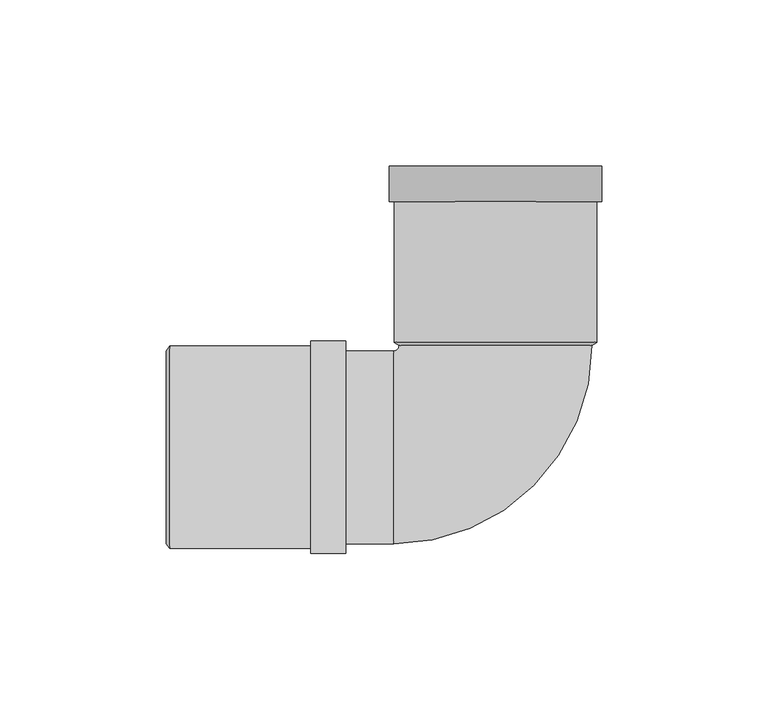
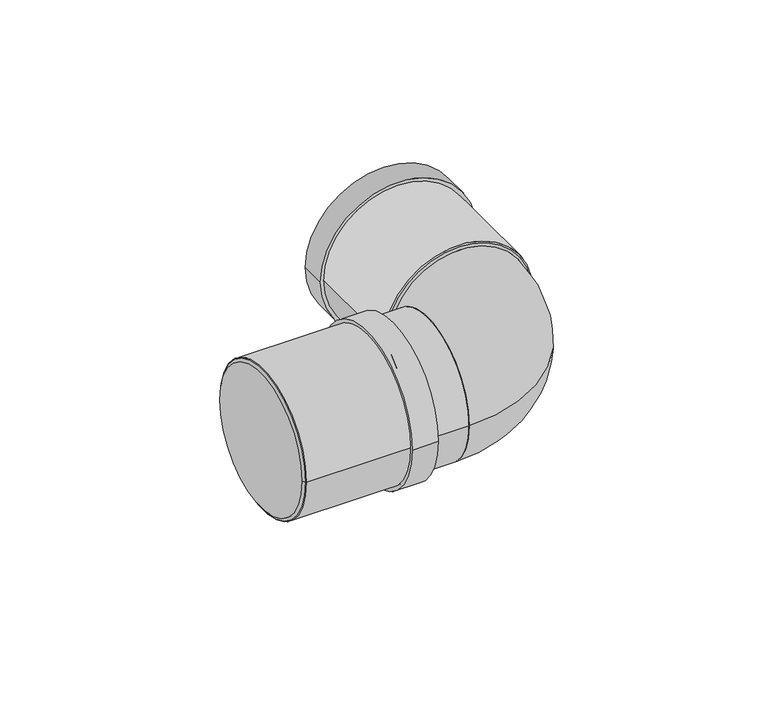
"""IFC4 building model written with IfcOpenShell, lengths in millimetres: pipe fitting geometry, Superdrain SK Bend_Composite 2x45 : Superdrain SK Bend_Composite 2x45."""

from ifc_helpers import new_model, si_unit, point, frame, origin, origin_2d, place, context, project, spatial, polyline, circle_curve, ellipse_curve, trimmed, segment, composite_curve, outline, extrude, source, transform, mapped, element, save
from ifc_brep_helpers import plane_surface, revolved_surface, advanced_brep


def pipe_fitting_b8992279(model_context):
    return source(origin(), model_context, "Body", "SolidModel", [
        extrude(outline(composite_curve([segment(trimmed(circle_curve(origin_2d(), 30.45), [point((30.45, 0.0))], [point((-30.45, 0.0))], False, "CARTESIAN"), True, "CONTINUOUS"), segment(trimmed(circle_curve(origin_2d(), 30.45), [point((-30.45, 0.0))], [point((30.45, 0.0))], False, "CARTESIAN"), True, "CONTINUOUS")], self_intersect=False), holes=[composite_curve([segment(trimmed(circle_curve(origin_2d(), 29.0), [point((29.0, 0.0))], [point((-29.0, 0.0))], True, "CARTESIAN"), True, "CONTINUOUS"), segment(trimmed(circle_curve(origin_2d(), 29.0), [point((-29.0, 0.0))], [point((29.0, 0.0))], True, "CARTESIAN"), True, "CONTINUOUS")], self_intersect=False)]), frame((-98.0, 0.0, 0.0), z_axis=(1.0, 0.0, 0.0), x_axis=(0.0, 1.0, 0.0)), (0.0, 0.0, 1.0), 53.0),
        extrude(outline(composite_curve([segment(trimmed(circle_curve(origin_2d(), 31.9725), [point((31.9725, 0.0))], [point((-31.9725, 0.0))], False, "CARTESIAN"), True, "CONTINUOUS"), segment(trimmed(circle_curve(origin_2d(), 31.9725), [point((-31.9725, 0.0))], [point((31.9725, 0.0))], False, "CARTESIAN"), True, "CONTINUOUS")], self_intersect=False), holes=[composite_curve([segment(trimmed(circle_curve(origin_2d(), 29.0), [point((29.0, 0.0))], [point((-29.0, 0.0))], True, "CARTESIAN"), True, "CONTINUOUS"), segment(trimmed(circle_curve(origin_2d(), 29.0), [point((-29.0, 0.0))], [point((29.0, 0.0))], True, "CARTESIAN"), True, "CONTINUOUS")], self_intersect=False)]), frame((-55.6, 0.0, 0.0), z_axis=(1.0, 0.0, 0.0), x_axis=(0.0, 1.0, 0.0)), (0.0, 0.0, 1.0), 10.6),
        advanced_brep(
        [(-99.0, 29.0, 0.0), (-99.0, -29.0, 0.0), (-98.0, 30.45, 0.0), (-98.0, -30.45, 0.0)],
        [
            (0, 1, circle_curve(frame((-99.0, 0.0, 0.0), z_axis=(-1.0, 0.0, 0.0), x_axis=(0.0, 1.0, 0.0)), 29.0)),
            (1, 0, circle_curve(frame((-99.0, 0.0, 0.0), z_axis=(-1.0, 0.0, 0.0), x_axis=(0.0, -1.0, 0.0)), 29.0)),
            (2, 3, circle_curve(frame((-98.0, 0.0, 0.0), z_axis=(1.0, 0.0, 0.0), x_axis=(0.0, -1.0, 0.0)), 30.45)),
            (3, 2, circle_curve(frame((-98.0, 0.0, 0.0), z_axis=(1.0, 0.0, 0.0), x_axis=(0.0, 1.0, 0.0)), 30.45)),
            (3, 1),
            (0, 2),
        ],
        [
            plane_surface(frame((-99.0, 0.0, 0.0), z_axis=(-1.0, 0.0, 0.0), x_axis=(0.0, 0.0, -1.0))),
            plane_surface(frame((-98.0, 0.0, 0.0), z_axis=(1.0, 0.0, 0.0), x_axis=(0.0, 0.0, -1.0))),
            revolved_surface(polyline([(-99.0, 28.999999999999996, 0.0), (-98.0, 30.45, 0.0)]), (-119.0, 0.0, 0.0), (1.0, 0.0, 0.0)),
            revolved_surface(polyline([(-99.0, -28.999999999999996, 0.0), (-98.0, -30.45, 0.0)]), (-119.0, 0.0, 0.0), (1.0, 0.0, 0.0)),
        ],
        [
            (0, [[1, 2]]),
            (1, [[3, 4]]),
            (2, [[-4, 5, -1, 6]]),
            (3, [[-3, -6, -2, -5]]),
        ],
    ),
        advanced_brep(
        [(29.0, 30.6, 0.0), (-29.0, 30.6, 0.0), (-30.6, -29.0, 0.0), (-30.6, 29.0, 0.0)],
        [
            (0, 1, circle_curve(frame((0.0, 30.6, 0.0), z_axis=(0.0, 1.0, 0.0), x_axis=(-1.0, 0.0, 0.0)), 29.0)),
            (1, 0, circle_curve(frame((0.0, 30.6, 0.0), z_axis=(0.0, 1.0, 0.0), x_axis=(-1.0, 0.0, 0.0)), 29.0)),
            (2, 3, circle_curve(frame((-30.6, 0.0, 0.0), z_axis=(-1.0, 0.0, 0.0), x_axis=(0.0, 1.0, 0.0)), 29.0)),
            (3, 2, circle_curve(frame((-30.6, 0.0, 0.0), z_axis=(-1.0, 0.0, 0.0), x_axis=(0.0, 1.0, 0.0)), 29.0)),
            (3, 1, circle_curve(frame((-30.6, 30.6, 0.0), z_axis=(0.0, 0.0, 1.0), x_axis=(1.0, 0.0, 0.0)), 1.6)),
            (0, 2, circle_curve(frame((-30.6, 30.6, 0.0), z_axis=(0.0, 0.0, -1.0), x_axis=(1.0, 0.0, 0.0)), 59.6)),
        ],
        [
            plane_surface(frame((0.0, 30.6, 0.0), z_axis=(0.0, 1.0, 0.0), x_axis=(0.0, 0.0, -1.0))),
            plane_surface(frame((-30.6, 0.0, 0.0), z_axis=(-1.0, 0.0, 0.0), x_axis=(0.0, 0.0, -1.0))),
            revolved_surface(trimmed(ellipse_curve(frame((0.0, 30.6, 0.0), z_axis=(0.0, -1.0, 0.0), x_axis=(-1.0, 0.0, 0.0)), 29.0, 29.0), [point((-29.0, 30.6, 0.0))], [point((29.0, 30.6, 0.0))], True, "CARTESIAN"), (-30.6, 30.6, 0.0), (0.0, 0.0, 1.0)),
            revolved_surface(trimmed(ellipse_curve(frame((0.0, 30.6, 0.0), z_axis=(0.0, -1.0, 0.0), x_axis=(-1.0, 0.0, 0.0)), 29.0, 29.0), [point((29.0, 30.6, 0.0))], [point((-29.0, 30.6, 0.0))], True, "CARTESIAN"), (-30.6, 30.6, 0.0), (0.0, 0.0, 1.0)),
        ],
        [
            (0, [[1, 2]]),
            (1, [[3, 4]]),
            (2, [[-4, 5, -1, 6]]),
            (3, [[-3, -6, -2, -5]]),
        ],
    ),
        extrude(outline(composite_curve([segment(trimmed(circle_curve(origin_2d(), 30.45), [point((0.0, 30.45))], [point((0.0, -30.45))], False, "CARTESIAN"), True, "CONTINUOUS"), segment(trimmed(circle_curve(origin_2d(), 30.45), [point((0.0, -30.45))], [point((0.0, 30.45))], False, "CARTESIAN"), True, "CONTINUOUS")], self_intersect=False), holes=[composite_curve([segment(trimmed(circle_curve(origin_2d(), 29.0), [point((0.0, 29.0))], [point((0.0, -29.0))], True, "CARTESIAN"), True, "CONTINUOUS"), segment(trimmed(circle_curve(origin_2d(), 29.0), [point((0.0, -29.0))], [point((0.0, 29.0))], True, "CARTESIAN"), True, "CONTINUOUS")], self_intersect=False)]), frame((0.0, 31.6, 0.0), z_axis=(0.0, 1.0, 0.0), x_axis=(0.0, 0.0, 1.0)), (0.0, 0.0, 1.0), 53.0),
        extrude(outline(composite_curve([segment(trimmed(circle_curve(origin_2d(), 31.9725), [point((0.0, -31.9725))], [point((0.0, 31.9725))], False, "CARTESIAN"), True, "CONTINUOUS"), segment(trimmed(circle_curve(origin_2d(), 31.9725), [point((0.0, 31.9725))], [point((0.0, -31.9725))], False, "CARTESIAN"), True, "CONTINUOUS")], self_intersect=False), holes=[composite_curve([segment(trimmed(circle_curve(origin_2d(), 29.0), [point((0.0, -29.0))], [point((0.0, 29.0))], True, "CARTESIAN"), True, "CONTINUOUS"), segment(trimmed(circle_curve(origin_2d(), 29.0), [point((0.0, 29.0))], [point((0.0, -29.0))], True, "CARTESIAN"), True, "CONTINUOUS")], self_intersect=False)]), frame((0.0, 74.0, 0.0), z_axis=(0.0, 1.0, 0.0), x_axis=(0.0, 0.0, 1.0)), (0.0, 0.0, 1.0), 10.6),
        advanced_brep(
        [(30.45, 31.6, 0.0), (-30.45, 31.6, 0.0), (29.0, 30.6, 0.0), (-29.0, 30.6, 0.0)],
        [
            (0, 1, circle_curve(frame((0.0, 31.6, 0.0), z_axis=(0.0, 1.0, 0.0), x_axis=(1.0, 0.0, 0.0)), 30.45)),
            (1, 0, circle_curve(frame((0.0, 31.6, 0.0), z_axis=(0.0, 1.0, 0.0), x_axis=(-1.0, 0.0, 0.0)), 30.45)),
            (2, 3, circle_curve(frame((0.0, 30.6, 0.0), z_axis=(0.0, -1.0, 0.0), x_axis=(-1.0, 0.0, 0.0)), 29.0)),
            (3, 2, circle_curve(frame((0.0, 30.6, 0.0), z_axis=(0.0, -1.0, 0.0), x_axis=(1.0, 0.0, 0.0)), 29.0)),
            (3, 1),
            (0, 2),
        ],
        [
            plane_surface(frame((0.0, 31.6, 0.0), z_axis=(0.0, 1.0, 0.0), x_axis=(0.0, 0.0, -1.0))),
            plane_surface(frame((0.0, 30.6, 0.0), z_axis=(0.0, -1.0, 0.0), x_axis=(0.0, 0.0, -1.0))),
            revolved_surface(polyline([(-28.999999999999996, 30.6, 0.0), (-30.45, 31.6, 0.0)]), (0.0, 10.6, 0.0), (0.0, 1.0, 0.0)),
            revolved_surface(polyline([(28.999999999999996, 30.6, 0.0), (30.45, 31.6, 0.0)]), (0.0, 10.6, 0.0), (0.0, 1.0, 0.0)),
        ],
        [
            (0, [[1, 2]]),
            (1, [[3, 4]]),
            (2, [[-4, 5, -1, 6]]),
            (3, [[-3, -6, -2, -5]]),
        ],
    ),
        extrude(outline(composite_curve([segment(trimmed(circle_curve(origin_2d(), 29.0), [point((-29.0, 0.0))], [point((29.0, 0.0))], False, "CARTESIAN"), True, "CONTINUOUS"), segment(trimmed(circle_curve(origin_2d(), 29.0), [point((29.0, 0.0))], [point((-29.0, 0.0))], False, "CARTESIAN"), True, "CONTINUOUS")], self_intersect=False)), frame((-98.0, 0.0, 0.0), z_axis=(1.0, 0.0, 0.0), x_axis=(0.0, 1.0, 0.0)), (0.0, 0.0, 1.0), 67.4),
    ])


if __name__ == "__main__":
    model = new_model("IFC4")
    model_context = context("Model", 3, world=origin())
    ifc_project = project(units=[si_unit("LENGTHUNIT", "METRE", prefix="MILLI")], contexts=[model_context])
    site = spatial("IfcSite", under=ifc_project)
    building = spatial("IfcBuilding", under=site)
    placement = place(None, origin())
    pipe_fitting_shape = pipe_fitting_b8992279(model_context)
    element("IfcPipeFitting", 1, ObjectType="Superdrain SK Bend_Composite 2x45 : Superdrain SK Bend_Composite 2x45", at=placement, inside=building, context=model_context, shape_type="MappedRepresentation", body=[
        mapped(pipe_fitting_shape, transform((0.0, 0.0, 0.0), x_axis=(1.0, 0.0, 0.0), y_axis=(0.0, 1.0, 0.0), z_axis=(0.0, 0.0, 1.0))),
    ])
    save(model, "model.ifc")
